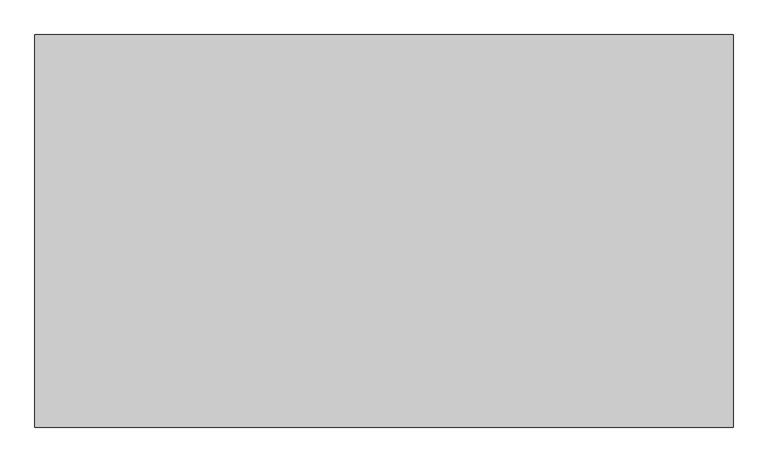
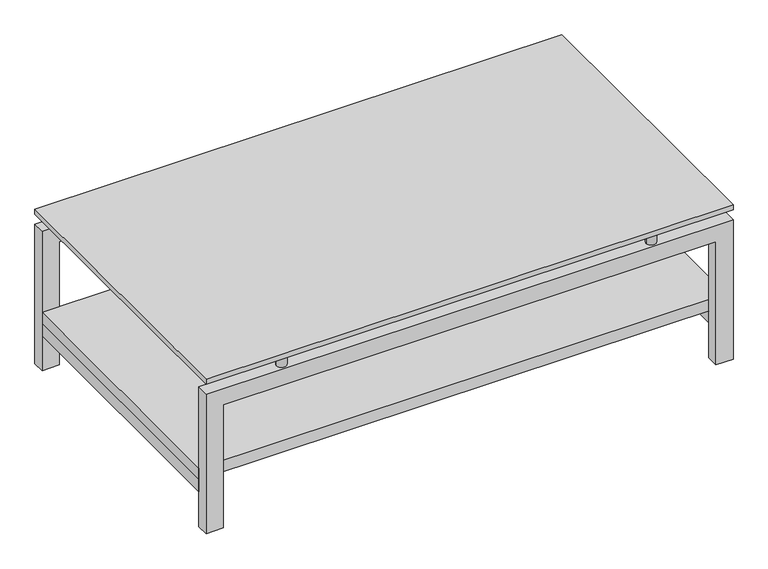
"""IFC4 building model written with IfcOpenShell, lengths in millimetres: furniture geometry, Mobiliário_MobiliáriodeEscritório_LinhaPERFECTA_Mesa de Centro - ZMCV 1006_Marelli : Mobiliário_MobiliáriodeEscritório_LinhaPERFECTA_Mesa de Centro - ZMCV 1006_Marelli."""

import ifcopenshell
import ifcopenshell.guid

model = None  # the IFC model being written
_history = None  # IfcOwnerHistory: only IFC2X3 demands one
_inside = {}  # id of a spatial element -> (the spatial element, [elements in it])
_under = {}  # id of a project, library or spatial element -> (it, [spatial elements below it])
_declared = {}  # id of a project -> (the project, [libraries it declares])
_typed = {}  # id of a type object -> (the type object, [elements of that type])
_made_of = {}  # id of a material, layer set ... -> (it, [elements and type objects made of it])


def new_model(schema):
    """Start an empty IFC model of exactly this schema.

    Asked for "IFC4X3", IfcOpenShell would pick the latest addendum, in which some entities
    have other attributes; the version numbers below select the first issue.
    IFC2X3 requires an IfcOwnerHistory on every rooted entity: one is made here for all.
    """
    global model, _history
    if schema == "IFC4X3":
        model = ifcopenshell.file(schema_version=(4, 3, 0, 0))
    else:
        model = ifcopenshell.file(schema=schema)
    _inside.clear()
    _under.clear()
    _declared.clear()
    _typed.clear()
    _made_of.clear()
    _history = None
    if model.schema == "IFC2X3":
        org = make("IfcOrganization", Name="unknown")
        user = make(
            "IfcPersonAndOrganization",
            ThePerson=make("IfcPerson", FamilyName="unknown"),
            TheOrganization=org,
        )
        app = make(
            "IfcApplication",
            ApplicationDeveloper=org,
            Version="unknown",
            ApplicationFullName="unknown",
            ApplicationIdentifier="unknown",
        )
        _history = make(
            "IfcOwnerHistory",
            OwningUser=user,
            OwningApplication=app,
            ChangeAction="ADDED",
            CreationDate=0,
        )
    return model


def make(cls, **values):
    """One entity of the class cls with the attributes given. An attribute that is None is left unset."""
    return model.create_entity(
        cls, **{name: value for name, value in values.items() if value is not None}
    )


def rooted(cls, **values):
    """An entity with a GlobalId (a new one), such as an element, a storey or a relation."""
    return make(cls, GlobalId=ifcopenshell.guid.new(), OwnerHistory=_history, **values)


def si_unit(unit_type, name, prefix=None):
    """IfcSIUnit, for example si_unit("LENGTHUNIT", "METRE", prefix="MILLI")."""
    return make("IfcSIUnit", UnitType=unit_type, Prefix=prefix, Name=name)


def assignment(units):
    """IfcUnitAssignment: the units of a project."""
    return None if units is None else make("IfcUnitAssignment", Units=units)


def point(xyz):
    """IfcCartesianPoint."""
    return None if xyz is None else make("IfcCartesianPoint", Coordinates=xyz)


def direction(xyz):
    """IfcDirection."""
    return None if xyz is None else make("IfcDirection", DirectionRatios=xyz)


def frame(location, z_axis=None, x_axis=None):
    """IfcAxis2Placement3D, a coordinate frame: its origin and axes. An axis left out is left unset."""
    return make(
        "IfcAxis2Placement3D",
        Location=point(location),
        Axis=direction(z_axis),
        RefDirection=direction(x_axis),
    )


def frame_2d(location, x_axis=None):
    """IfcAxis2Placement2D, a coordinate frame in the plane: its origin and x axis."""
    return make(
        "IfcAxis2Placement2D", Location=point(location), RefDirection=direction(x_axis)
    )


def origin():
    """The frame at (0, 0, 0) with its axes left unset."""
    return frame((0.0, 0.0, 0.0))


def place(relative_to, where):
    """IfcLocalPlacement: puts the frame where relative to a parent placement (None: the world)."""
    return make(
        "IfcLocalPlacement", PlacementRelTo=relative_to, RelativePlacement=where
    )


def context(
    kind, dimensions, precision=None, world=None, true_north=None, identifier=None
):
    """IfcGeometricRepresentationContext, for example the 3D "Model" context."""
    return make(
        "IfcGeometricRepresentationContext",
        ContextIdentifier=identifier,
        ContextType=kind,
        CoordinateSpaceDimension=dimensions,
        Precision=precision,
        WorldCoordinateSystem=world,
        TrueNorth=true_north,
    )


def project(units=None, contexts=None):
    """IfcProject with its units and contexts."""
    return rooted(
        "IfcProject",
        Name="project",
        RepresentationContexts=contexts,
        UnitsInContext=assignment(units),
    )


def spatial(cls, under=None, at=None, **own):
    """A site, building, storey or space (cls), placed at a placement, below another one or the project."""
    s = rooted(cls, ObjectPlacement=at, **own)
    if under is not None:
        _under.setdefault(under.id(), (under, []))[1].append(s)
    return s


def polyline(points):
    """IfcPolyline through the points."""
    return make("IfcPolyline", Points=[point(p) for p in points])


def circle_curve(where, radius):
    """IfcCircle in the frame where."""
    return make("IfcCircle", Position=where, Radius=radius)


def trimmed(basis, trim1, trim2, sense, master):
    """IfcTrimmedCurve: the piece of a basis curve between two trims."""
    return make(
        "IfcTrimmedCurve",
        BasisCurve=basis,
        Trim1=trim1,
        Trim2=trim2,
        SenseAgreement=sense,
        MasterRepresentation=master,
    )


def segment(curve, same_sense, transition):
    """IfcCompositeCurveSegment."""
    return make(
        "IfcCompositeCurveSegment",
        Transition=transition,
        SameSense=same_sense,
        ParentCurve=curve,
    )


def composite_curve(segments, self_intersect=None):
    """IfcCompositeCurve: segments joined end to end."""
    return make("IfcCompositeCurve", Segments=segments, SelfIntersect=self_intersect)


def outline(outer, holes=None, kind="AREA"):
    """IfcArbitraryClosedProfileDef: a profile drawn as a closed curve; with holes, ...WithVoids."""
    if holes is None:
        return make("IfcArbitraryClosedProfileDef", ProfileType=kind, OuterCurve=outer)
    return make(
        "IfcArbitraryProfileDefWithVoids",
        ProfileType=kind,
        OuterCurve=outer,
        InnerCurves=holes,
    )


def extrude(swept, where, along, depth):
    """IfcExtrudedAreaSolid: the profile swept, set in the frame where, extruded along a direction by depth."""
    return make(
        "IfcExtrudedAreaSolid",
        SweptArea=swept,
        Position=where,
        ExtrudedDirection=direction(along),
        Depth=depth,
    )


def shape(context_of_items, identifier, shape_type, items):
    """IfcShapeRepresentation: the items that make up one representation, for example the "Body"."""
    return make(
        "IfcShapeRepresentation",
        ContextOfItems=context_of_items,
        RepresentationIdentifier=identifier,
        RepresentationType=shape_type,
        Items=items,
    )


def source(mapping_origin, context_of_items, identifier, shape_type, items):
    """IfcRepresentationMap: a shape defined once, which mapped items show again and again."""
    return make(
        "IfcRepresentationMap",
        MappingOrigin=mapping_origin,
        MappedRepresentation=shape(context_of_items, identifier, shape_type, items),
    )


def transform(
    local_origin,
    x_axis=None,
    y_axis=None,
    z_axis=None,
    scale=None,
    scale2=None,
    scale3=None,
    uniform=True,
):
    """IfcCartesianTransformationOperator3D, or its non-uniform kind. x_axis, y_axis, z_axis: its Axis1, 2, 3."""
    if uniform:
        return make(
            "IfcCartesianTransformationOperator3D",
            Axis1=direction(x_axis),
            Axis2=direction(y_axis),
            LocalOrigin=point(local_origin),
            Scale=scale,
            Axis3=direction(z_axis),
        )
    return make(
        "IfcCartesianTransformationOperator3DnonUniform",
        Axis1=direction(x_axis),
        Axis2=direction(y_axis),
        LocalOrigin=point(local_origin),
        Scale=scale,
        Axis3=direction(z_axis),
        Scale2=scale2,
        Scale3=scale3,
    )


def mapped(mapping_source, mapping_target):
    """IfcMappedItem: shows the shape of a source again, moved by a transform."""
    return make(
        "IfcMappedItem", MappingSource=mapping_source, MappingTarget=mapping_target
    )


def made_of(thing, what):
    """Note that an element or type object is made of a material, layer set ...; save() writes the relation."""
    if what is not None:
        _made_of.setdefault(what.id(), (what, []))[1].append(thing)
    return thing


def element(
    cls,
    number,
    at=None,
    inside=None,
    cuts=None,
    type_object=None,
    material=None,
    context=None,
    identifier="Body",
    shape_type=None,
    held_by="IfcProductDefinitionShape",
    body=None,
    shapes=None,
    **own,
):
    """One element of the class cls, such as IfcWall. Its Tag is "e" and its number.

    at: its placement. inside: the storey or other place that contains it. cuts: it is an
    opening in that element (IfcRelVoidsElement). A single representation is given by context,
    identifier, shape_type and body (its items); several are given by shapes. held_by: the class
    of the entity that holds the representations. save() writes the other relations.
    """
    e = rooted(cls, Tag="e%d" % number, ObjectPlacement=at, **own)
    if body is not None:
        shapes = [shape(context, identifier, shape_type, body)]
    if shapes is not None:
        e.Representation = make(held_by, Representations=shapes)
    if inside is not None:
        _inside.setdefault(inside.id(), (inside, []))[1].append(e)
    if cuts is not None:
        rooted(
            "IfcRelVoidsElement", RelatingBuildingElement=cuts, RelatedOpeningElement=e
        )
    if type_object is not None:
        _typed.setdefault(type_object.id(), (type_object, []))[1].append(e)
    return made_of(e, material)


def aggregate(whole, parts):
    """IfcRelAggregates: a whole, such as a stair, and the parts it consists of."""
    return rooted("IfcRelAggregates", RelatingObject=whole, RelatedObjects=parts)


def save(model, path):
    """Write the relations noted so far, then the file.

    IfcRelAggregates (storeys below a building ...), IfcRelContainedInSpatialStructure (elements
    in a storey), IfcRelDefinesByType, IfcRelAssociatesMaterial and IfcRelDeclares: one each for
    every whole, place, type object, material and project.
    """
    for whole, parts in _under.values():
        aggregate(whole, parts)
    for where, things in _inside.values():
        rooted(
            "IfcRelContainedInSpatialStructure",
            RelatedElements=things,
            RelatingStructure=where,
        )
    for kind, things in _typed.values():
        rooted("IfcRelDefinesByType", RelatedObjects=things, RelatingType=kind)
    for what, things in _made_of.values():
        rooted("IfcRelAssociatesMaterial", RelatedObjects=things, RelatingMaterial=what)
    for by, libraries in _declared.values():
        rooted("IfcRelDeclares", RelatingContext=by, RelatedDefinitions=libraries)
    model.write(path)


def furniture_01a6ce01(model_context):
    return source(origin(), model_context, "Body", "SweptSolid", [
        extrude(outline(polyline([(1067.0, 0.0), (0.0, 0.0), (0.0, 600.0), (1067.0, 600.0), (1067.0, 0.0)])), frame((0.0, 0.0, 320.0000001), z_axis=(0.0, 0.0, 1.0), x_axis=(1.0, 0.0, 0.0)), (0.0, 0.0, 1.0), 9.9999999),
        extrude(outline(polyline([(0.0, 35.0000007), (263.7000003, 35.0000007), (263.7000003, 1032.0000044), (0.0, 1032.0000044), (0.0, 1067.0), (298.7178147, 1067.0), (298.7178147, 0.0), (0.0, 0.0), (0.0, 35.0000007)])), frame((0.0, 0.0, 0.0), z_axis=(0.0, 1.0, 0.0), x_axis=(0.0, 0.0, 1.0)), (0.0, 0.0, 1.0), 25.0),
        extrude(outline(polyline([(0.0, 35.0000007), (263.7000003, 35.0000007), (263.7000003, 1032.0000044), (0.0, 1032.0000044), (0.0, 1067.0), (298.7178147, 1067.0), (298.7178147, 0.0), (0.0, 0.0), (0.0, 35.0000007)])), frame((0.0, 575.0, 0.0), z_axis=(0.0, 1.0, 0.0), x_axis=(0.0, 0.0, 1.0)), (0.0, 0.0, 1.0), 25.0),
        extrude(outline(polyline([(1067.0, 575.0), (1067.0, 25.0), (1032.0000044, 25.0), (1032.0000044, 575.0), (1067.0, 575.0)])), frame((0.0, 0.0, 75.0), z_axis=(0.0, 0.0, 1.0), x_axis=(1.0, 0.0, 0.0)), (0.0, 0.0, 1.0), 25.0),
        extrude(outline(polyline([(34.9999956, 575.0), (34.9999956, 25.0), (0.0, 25.0), (0.0, 575.0), (34.9999956, 575.0)])), frame((0.0, 0.0, 75.0), z_axis=(0.0, 0.0, 1.0), x_axis=(1.0, 0.0, 0.0)), (0.0, 0.0, 1.0), 25.0),
        extrude(outline(polyline([(1067.0, 575.0), (1067.0, 25.0), (0.0, 25.0), (0.0, 575.0), (1067.0, 575.0)])), frame((0.0, 0.0, 100.0), z_axis=(0.0, 0.0, 1.0), x_axis=(1.0, 0.0, 0.0)), (0.0, 0.0, 1.0), 25.0),
        extrude(outline(composite_curve([segment(trimmed(circle_curve(frame_2d((159.7305167, 587.5002005)), 10.0000005), [point((149.7305161, 587.5002005))], [point((169.7305172, 587.5002005))], False, "CARTESIAN"), True, "CONTINUOUS"), segment(trimmed(circle_curve(frame_2d((159.7305167, 587.5002005)), 10.0000005), [point((169.7305172, 587.5002005))], [point((149.7305161, 587.5002005))], False, "CARTESIAN"), True, "CONTINUOUS")], self_intersect=False)), frame((0.0, 0.0, 298.7178147), z_axis=(0.0, 0.0, 1.0), x_axis=(1.0, 0.0, 0.0)), (0.0, 0.0, 1.0), 21.2821854),
        extrude(outline(composite_curve([segment(trimmed(circle_curve(frame_2d((159.7305161, 12.4999)), 10.0), [point((149.7305161, 12.4999))], [point((169.7305161, 12.4999))], False, "CARTESIAN"), True, "CONTINUOUS"), segment(trimmed(circle_curve(frame_2d((159.7305161, 12.4999)), 10.0), [point((169.7305161, 12.4999))], [point((149.7305161, 12.4999))], False, "CARTESIAN"), True, "CONTINUOUS")], self_intersect=False)), frame((0.0, 0.0, 298.7178147), z_axis=(0.0, 0.0, 1.0), x_axis=(1.0, 0.0, 0.0)), (0.0, 0.0, 1.0), 21.2821854),
        extrude(outline(composite_curve([segment(trimmed(circle_curve(frame_2d((907.9766115, 587.5002005)), 10.0000005), [point((917.976612, 587.5002005))], [point((897.9766109, 587.5002005))], False, "CARTESIAN"), True, "CONTINUOUS"), segment(trimmed(circle_curve(frame_2d((907.9766115, 587.5002005)), 10.0000005), [point((897.9766109, 587.5002005))], [point((917.976612, 587.5002005))], False, "CARTESIAN"), True, "CONTINUOUS")], self_intersect=False)), frame((0.0, 0.0, 298.7178147), z_axis=(0.0, 0.0, 1.0), x_axis=(1.0, 0.0, 0.0)), (0.0, 0.0, 1.0), 21.2821854),
        extrude(outline(composite_curve([segment(trimmed(circle_curve(frame_2d((907.976612, 12.4999)), 10.0), [point((917.976612, 12.4999))], [point((897.976612, 12.4999))], False, "CARTESIAN"), True, "CONTINUOUS"), segment(trimmed(circle_curve(frame_2d((907.976612, 12.4999)), 10.0), [point((897.976612, 12.4999))], [point((917.976612, 12.4999))], False, "CARTESIAN"), True, "CONTINUOUS")], self_intersect=False)), frame((0.0, 0.0, 298.7178147), z_axis=(0.0, 0.0, 1.0), x_axis=(1.0, 0.0, 0.0)), (0.0, 0.0, 1.0), 21.2821854),
    ])


if __name__ == "__main__":
    model = new_model("IFC4")
    model_context = context("Model", 3, world=origin())
    ifc_project = project(units=[si_unit("LENGTHUNIT", "METRE", prefix="MILLI")], contexts=[model_context])
    site = spatial("IfcSite", under=ifc_project)
    building = spatial("IfcBuilding", under=site)
    placement = place(None, origin())
    furniture_shape = furniture_01a6ce01(model_context)
    element("IfcFurniture", 1, ObjectType="Mobiliário_MobiliáriodeEscritório_LinhaPERFECTA_Mesa de Centro - ZMCV 1006_Marelli : Mobiliário_MobiliáriodeEscritório_LinhaPERFECTA_Mesa de Centro - ZMCV 1006_Marelli", at=placement, inside=building, context=model_context, shape_type="MappedRepresentation", body=[
        mapped(furniture_shape, transform((0.0, 0.0, 0.0), x_axis=(1.0, 0.0, 0.0), y_axis=(0.0, 1.0, 0.0), z_axis=(0.0, 0.0, 1.0))),
    ])
    save(model, "model.ifc")
